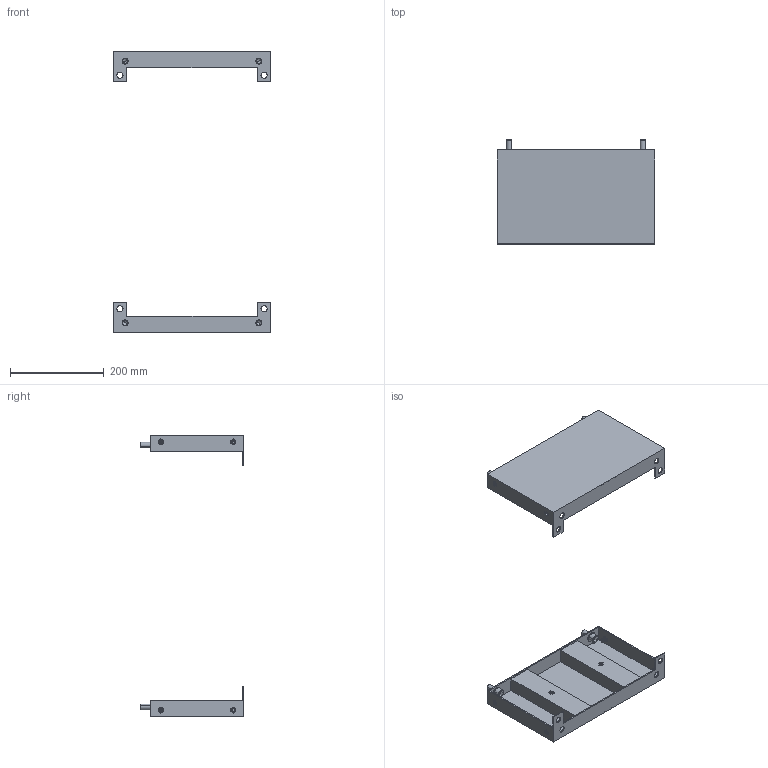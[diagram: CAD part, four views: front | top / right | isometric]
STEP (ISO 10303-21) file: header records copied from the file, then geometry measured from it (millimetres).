
FILE_DESCRIPTION (( 'STEP AP203' ), '1' );
FILE_NAME ('R6PLB40-200 H=600 SIMPLE.STEP', '2026-07-22T11:09:30', ( '' ), ( '' ), 'SwSTEP 2.0', 'SolidWorks 2022', '' );
FILE_SCHEMA (( 'CONFIG_CONTROL_DESIGN' ));
Length unit declared in the file: millimetre
Products named in the file (8): РГМЦ.RB.3309.00.02.0 simple_-01; 12 DIN 6798 A Zinc; РГМЦ.RB.3309.00.00.0 СБ SIMPLE 04-07_-06; R6PLB40-200 H=600 SIMPLE; M12x25 DIN 912 HX cl.8,8 Zinc_stright; M6 MGS-MPO-0635_thread; РГМЦ.RB.3309.00.01.0 simple_-06; M6 MGS-MPO-0635_straight
Assembly tree (19 placements, depth 3):
  R6PLB40-200 H=600 SIMPLE
    РГМЦ.RB.3309.00.00.0 СБ SIMPLE 04-07_-06  x2
      РГМЦ.RB.3309.00.01.0 simple_-06
      M6 MGS-MPO-0635_thread
      РГМЦ.RB.3309.00.02.0 simple_-01
      M6 MGS-MPO-0635_straight
    12 DIN 6798 A Zinc  x4
    M12x25 DIN 912 HX cl.8,8 Zinc_stright  x4
Bounding box: 336.7 x 221.5 x 600 mm (x, y, z)
Volume: 741076.6 mm3; surface area: 606785.8 mm2
Topology: 26 solids, 26 shells, 1468 faces, 3828 edges, 2188 vertices
Faces by surface type: plane 556, cylinder 544, bspline 152, sphere 144, cone 40, torus 32
Entity records: 13372 total; most frequent: CARTESIAN_POINT 5039, ORIENTED_EDGE 1540, DIRECTION 1409, EDGE_CURVE 770, VERTEX_POINT 482, AXIS2_PLACEMENT_3D 473, VECTOR 463, LINE 463
